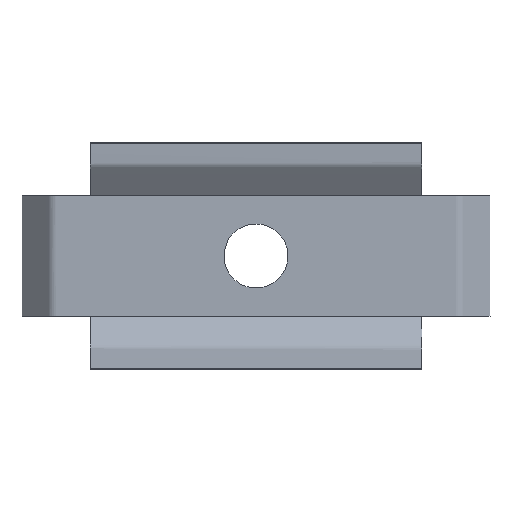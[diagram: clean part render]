
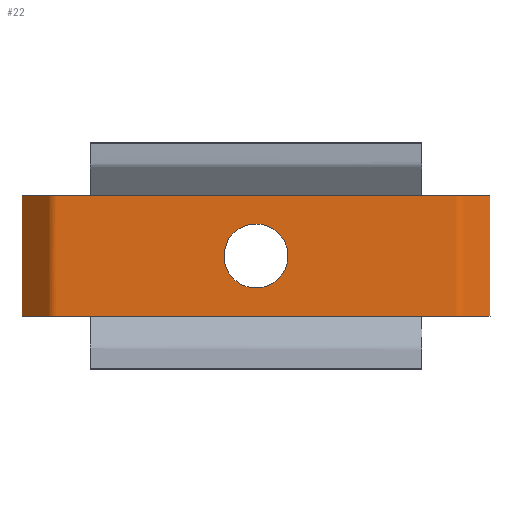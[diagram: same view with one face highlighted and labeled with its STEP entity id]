
A CAD part, top view. The second image highlights one B-rep face of the part: STEP entity #22.
In plain terms, the highlighted free-form (B-spline) face has degree [1, 2] with [2, 11] control points.
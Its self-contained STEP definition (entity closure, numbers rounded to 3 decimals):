
#15=FACE_BOUND('',#68,.T.);
#22=ADVANCED_FACE('',(#44,#15),#362,.T.);
#44=FACE_OUTER_BOUND('',#67,.T.);
#67=EDGE_LOOP('',(#121,#122,#123,#124,#125,#126,#127,#128));
#68=EDGE_LOOP('',(#129));
#121=ORIENTED_EDGE('',*,*,#228,.F.);
#122=ORIENTED_EDGE('',*,*,#229,.F.);
#123=ORIENTED_EDGE('',*,*,#248,.T.);
#124=ORIENTED_EDGE('',*,*,#243,.T.);
#125=ORIENTED_EDGE('',*,*,#227,.F.);
#126=ORIENTED_EDGE('',*,*,#241,.F.);
#127=ORIENTED_EDGE('',*,*,#250,.F.);
#128=ORIENTED_EDGE('',*,*,#226,.F.);
#129=ORIENTED_EDGE('',*,*,#258,.F.);
#226=EDGE_CURVE('',#346,#345,#311,.T.);
#227=EDGE_CURVE('',#347,#348,#270,.T.);
#228=EDGE_CURVE('',#349,#346,#271,.T.);
#229=EDGE_CURVE('',#344,#349,#312,.T.);
#241=EDGE_CURVE('',#354,#347,#313,.T.);
#243=EDGE_CURVE('',#355,#348,#314,.T.);
#248=EDGE_CURVE('',#344,#355,#287,.T.);
#250=EDGE_CURVE('',#345,#354,#288,.T.);
#258=EDGE_CURVE('',#359,#359,#322,.T.);
#270=B_SPLINE_CURVE_WITH_KNOTS('',1,(#772,#773),.UNSPECIFIED.,.F.,.F.,(2,
2),(0.,16.005),.UNSPECIFIED.);
#271=B_SPLINE_CURVE_WITH_KNOTS('',1,(#774,#775),.UNSPECIFIED.,.F.,.F.,(2,
2),(-16.005,0.),.UNSPECIFIED.);
#287=B_SPLINE_CURVE_WITH_KNOTS('',1,(#836,#837),.UNSPECIFIED.,.F.,.F.,(2,
2),(0.,44.),.UNSPECIFIED.);
#288=B_SPLINE_CURVE_WITH_KNOTS('',1,(#845,#846),.UNSPECIFIED.,.F.,.F.,(2,
2),(0.,44.),.UNSPECIFIED.);
#311=(
BOUNDED_CURVE()
B_SPLINE_CURVE(2,(#765,#766,#767,#768,#769,#770,#771),.UNSPECIFIED.,.F.,
 .F.)
B_SPLINE_CURVE_WITH_KNOTS((3,2,2,3),(-5.551,0.,1.178,
5.678),.UNSPECIFIED.)
CURVE()
GEOMETRIC_REPRESENTATION_ITEM()
RATIONAL_B_SPLINE_CURVE((1.,1.,1.,0.924,1.,1.,1.))
REPRESENTATION_ITEM('')
);
#312=(
BOUNDED_CURVE()
B_SPLINE_CURVE(2,(#776,#777,#778,#779,#780,#781,#782),.UNSPECIFIED.,.F.,
 .F.)
B_SPLINE_CURVE_WITH_KNOTS((3,2,2,3),(-5.678,-1.178,
0.,5.551),.UNSPECIFIED.)
CURVE()
GEOMETRIC_REPRESENTATION_ITEM()
RATIONAL_B_SPLINE_CURVE((1.,1.,1.,0.924,1.,1.,1.))
REPRESENTATION_ITEM('')
);
#313=(
BOUNDED_CURVE()
B_SPLINE_CURVE(2,(#805,#806,#807,#808,#809,#810,#811),.UNSPECIFIED.,.F.,
 .F.)
B_SPLINE_CURVE_WITH_KNOTS((3,2,2,3),(-4.5,0.,1.178,6.729),
 .UNSPECIFIED.)
CURVE()
GEOMETRIC_REPRESENTATION_ITEM()
RATIONAL_B_SPLINE_CURVE((1.,1.,1.,0.924,1.,1.,1.))
REPRESENTATION_ITEM('')
);
#314=(
BOUNDED_CURVE()
B_SPLINE_CURVE(2,(#814,#815,#816,#817,#818,#819,#820),.UNSPECIFIED.,.F.,
 .F.)
B_SPLINE_CURVE_WITH_KNOTS((3,2,2,3),(-4.5,0.,1.178,6.729),
 .UNSPECIFIED.)
CURVE()
GEOMETRIC_REPRESENTATION_ITEM()
RATIONAL_B_SPLINE_CURVE((1.,1.,1.,0.924,1.,1.,1.))
REPRESENTATION_ITEM('')
);
#322=(
BOUNDED_CURVE()
B_SPLINE_CURVE(2,(#876,#877,#878,#879,#880,#881,#882,#883,#884),
 .UNSPECIFIED.,.T.,.F.)
B_SPLINE_CURVE_WITH_KNOTS((3,2,2,2,3),(0.,6.675,13.35,
20.025,26.7),.UNSPECIFIED.)
CURVE()
GEOMETRIC_REPRESENTATION_ITEM()
RATIONAL_B_SPLINE_CURVE((1.,0.707,1.,0.707,1.,0.707,
1.,0.707,1.))
REPRESENTATION_ITEM('')
);
#344=VERTEX_POINT('',#633);
#345=VERTEX_POINT('',#634);
#346=VERTEX_POINT('',#635);
#347=VERTEX_POINT('',#636);
#348=VERTEX_POINT('',#637);
#349=VERTEX_POINT('',#638);
#354=VERTEX_POINT('',#643);
#355=VERTEX_POINT('',#644);
#359=VERTEX_POINT('',#648);
#362=(
BOUNDED_SURFACE()
B_SPLINE_SURFACE(1,2,((#549,#550,#551,#552,#553,#554,#555,#556,#557,#558,
#559),(#560,#561,#562,#563,#564,#565,#566,#567,#568,#569,#570)),
 .UNSPECIFIED.,.F.,.F.,.F.)
B_SPLINE_SURFACE_WITH_KNOTS((2,2),(3,2,2,2,2,3),(0.,16.005),(-5.551,
0.,1.178,54.178,55.356,60.907),
 .UNSPECIFIED.)
GEOMETRIC_REPRESENTATION_ITEM()
RATIONAL_B_SPLINE_SURFACE(((1.,1.,1.,0.924,1.,1.,1.,0.924,
1.,1.,1.),(1.,1.,1.,0.924,1.,1.,1.,0.924,1.,1.,
1.)))
REPRESENTATION_ITEM('')
SURFACE()
);
#549=CARTESIAN_POINT('',(-31.096,8.002,-3.975));
#550=CARTESIAN_POINT('',(-29.328,8.002,-2.207));
#551=CARTESIAN_POINT('',(-27.561,8.002,-0.439));
#552=CARTESIAN_POINT('',(-27.121,8.002,0.));
#553=CARTESIAN_POINT('',(-26.5,8.002,0.));
#554=CARTESIAN_POINT('',(0.,8.002,0.));
#555=CARTESIAN_POINT('',(26.5,8.002,0.));
#556=CARTESIAN_POINT('',(27.121,8.002,0.));
#557=CARTESIAN_POINT('',(27.561,8.002,-0.439));
#558=CARTESIAN_POINT('',(29.328,8.002,-2.207));
#559=CARTESIAN_POINT('',(31.096,8.002,-3.975));
#560=CARTESIAN_POINT('',(-31.096,-8.002,-3.975));
#561=CARTESIAN_POINT('',(-29.328,-8.002,-2.207));
#562=CARTESIAN_POINT('',(-27.561,-8.002,-0.439));
#563=CARTESIAN_POINT('',(-27.121,-8.002,0.));
#564=CARTESIAN_POINT('',(-26.5,-8.002,0.));
#565=CARTESIAN_POINT('',(0.,-8.002,0.));
#566=CARTESIAN_POINT('',(26.5,-8.002,0.));
#567=CARTESIAN_POINT('',(27.121,-8.002,0.));
#568=CARTESIAN_POINT('',(27.561,-8.002,-0.439));
#569=CARTESIAN_POINT('',(29.328,-8.002,-2.207));
#570=CARTESIAN_POINT('',(31.096,-8.002,-3.975));
#633=CARTESIAN_POINT('',(-22.,-8.002,0.001));
#634=CARTESIAN_POINT('',(-22.,8.002,0.001));
#635=CARTESIAN_POINT('',(-31.096,8.002,-3.975));
#636=CARTESIAN_POINT('',(31.096,8.002,-3.975));
#637=CARTESIAN_POINT('',(31.096,-8.002,-3.975));
#638=CARTESIAN_POINT('',(-31.096,-8.002,-3.975));
#643=CARTESIAN_POINT('',(22.,8.002,0.001));
#644=CARTESIAN_POINT('',(22.,-8.002,0.001));
#648=CARTESIAN_POINT('',(0.,4.25,0.));
#765=CARTESIAN_POINT('',(-31.096,8.002,-3.975));
#766=CARTESIAN_POINT('',(-29.328,8.002,-2.207));
#767=CARTESIAN_POINT('',(-27.561,8.002,-0.439));
#768=CARTESIAN_POINT('',(-27.121,8.002,0.));
#769=CARTESIAN_POINT('',(-26.5,8.002,0.));
#770=CARTESIAN_POINT('',(-24.25,8.002,0.001));
#771=CARTESIAN_POINT('',(-22.,8.002,0.001));
#772=CARTESIAN_POINT('',(31.096,8.002,-3.975));
#773=CARTESIAN_POINT('',(31.096,-8.002,-3.975));
#774=CARTESIAN_POINT('',(-31.096,-8.002,-3.975));
#775=CARTESIAN_POINT('',(-31.096,8.002,-3.975));
#776=CARTESIAN_POINT('',(-22.,-8.002,0.001));
#777=CARTESIAN_POINT('',(-24.25,-8.002,0.001));
#778=CARTESIAN_POINT('',(-26.5,-8.002,0.));
#779=CARTESIAN_POINT('',(-27.121,-8.002,0.));
#780=CARTESIAN_POINT('',(-27.561,-8.002,-0.439));
#781=CARTESIAN_POINT('',(-29.328,-8.002,-2.207));
#782=CARTESIAN_POINT('',(-31.096,-8.002,-3.975));
#805=CARTESIAN_POINT('',(22.,8.002,0.001));
#806=CARTESIAN_POINT('',(24.25,8.002,0.001));
#807=CARTESIAN_POINT('',(26.5,8.002,0.));
#808=CARTESIAN_POINT('',(27.121,8.002,0.));
#809=CARTESIAN_POINT('',(27.561,8.002,-0.439));
#810=CARTESIAN_POINT('',(29.328,8.002,-2.207));
#811=CARTESIAN_POINT('',(31.096,8.002,-3.975));
#814=CARTESIAN_POINT('',(22.,-8.002,0.001));
#815=CARTESIAN_POINT('',(24.25,-8.002,0.001));
#816=CARTESIAN_POINT('',(26.5,-8.002,0.));
#817=CARTESIAN_POINT('',(27.121,-8.002,0.));
#818=CARTESIAN_POINT('',(27.561,-8.002,-0.439));
#819=CARTESIAN_POINT('',(29.328,-8.002,-2.207));
#820=CARTESIAN_POINT('',(31.096,-8.002,-3.975));
#836=CARTESIAN_POINT('',(-22.,-8.002,0.001));
#837=CARTESIAN_POINT('',(22.,-8.002,0.001));
#845=CARTESIAN_POINT('',(-22.,8.002,0.001));
#846=CARTESIAN_POINT('',(22.,8.002,0.001));
#876=CARTESIAN_POINT('',(0.,4.25,0.));
#877=CARTESIAN_POINT('',(-4.25,4.25,0.));
#878=CARTESIAN_POINT('',(-4.25,0.,0.));
#879=CARTESIAN_POINT('',(-4.25,-4.25,0.));
#880=CARTESIAN_POINT('',(0.,-4.25,0.));
#881=CARTESIAN_POINT('',(4.25,-4.25,0.));
#882=CARTESIAN_POINT('',(4.25,0.,0.));
#883=CARTESIAN_POINT('',(4.25,4.25,0.));
#884=CARTESIAN_POINT('',(0.,4.25,0.));
